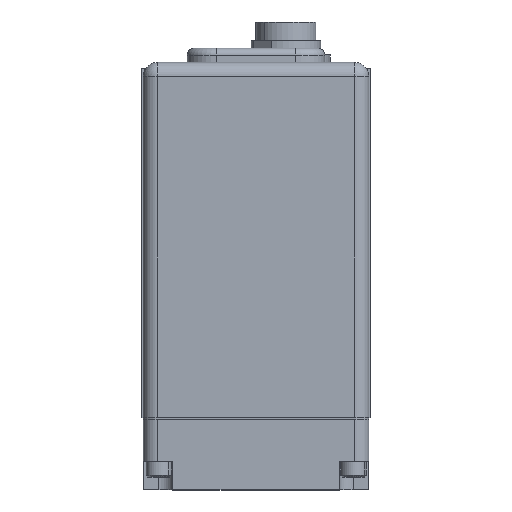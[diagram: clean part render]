
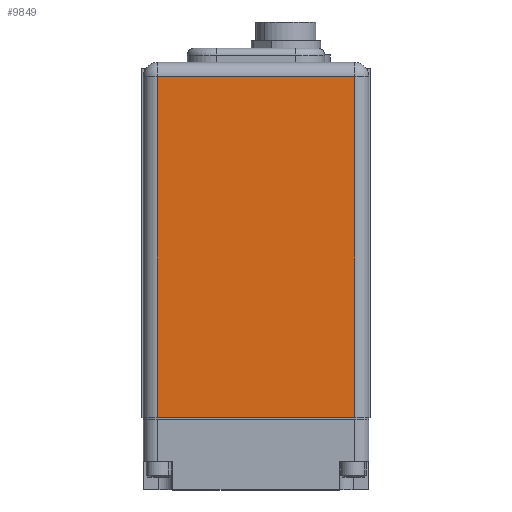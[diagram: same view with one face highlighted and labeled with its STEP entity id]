
A CAD part, top view. The second image highlights one B-rep face of the part: STEP entity #9849.
In plain terms, the highlighted planar face has unit normal (0, 0, 1) as drawn and (0, 1, 0) by its records, which use the part's own axes.
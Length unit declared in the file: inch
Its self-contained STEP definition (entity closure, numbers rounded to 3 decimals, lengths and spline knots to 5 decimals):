
#1101 = DIRECTION ( 'NONE',  ( 0., 0., -1. ) ) ;
#1125 = DIRECTION ( 'NONE',  ( 0., 0., -1. ) ) ;
#1736 = EDGE_CURVE ( 'NONE', #7206, #16267, #20302, .T. ) ;
#1935 = CARTESIAN_POINT ( 'NONE',  ( 0.875, 1., 0. ) ) ;
#2141 = VECTOR ( 'NONE', #17930, 39.37008 ) ;
#2163 = ORIENTED_EDGE ( 'NONE', *, *, #22318, .T. ) ;
#3141 = PLANE ( 'NONE',  #16396 ) ;
#3861 = LINE ( 'NONE', #11194, #2141 ) ;
#6800 = FACE_OUTER_BOUND ( 'NONE', #13980, .T. ) ;
#7206 = VERTEX_POINT ( 'NONE', #20013 ) ;
#8777 = LINE ( 'NONE', #12433, #17712 ) ;
#8821 = VERTEX_POINT ( 'NONE', #1935 ) ;
#9548 = DIRECTION ( 'NONE',  ( -1., 0., 0. ) ) ;
#9849 = ADVANCED_FACE ( 'NONE', ( #6800 ), #3141, .F. ) ;
#11005 = VECTOR ( 'NONE', #11047, 39.37008 ) ;
#11047 = DIRECTION ( 'NONE',  ( 1., 0., 0. ) ) ;
#11194 = CARTESIAN_POINT ( 'NONE',  ( -0.875, 1., -3.15 ) ) ;
#12433 = CARTESIAN_POINT ( 'NONE',  ( 0.875, 1., -3.15 ) ) ;
#13457 = VECTOR ( 'NONE', #9548, 39.37008 ) ;
#13980 = EDGE_LOOP ( 'NONE', ( #2163, #16439, #21750, #19689 ) ) ;
#14267 = EDGE_CURVE ( 'NONE', #8821, #7206, #8777, .T. ) ;
#14822 = CARTESIAN_POINT ( 'NONE',  ( -1., 1., 0. ) ) ;
#15804 = CARTESIAN_POINT ( 'NONE',  ( -0.875, 1., -3.025 ) ) ;
#16267 = VERTEX_POINT ( 'NONE', #15804 ) ;
#16396 = AXIS2_PLACEMENT_3D ( 'NONE', #21000, #17561, #1125 ) ;
#16439 = ORIENTED_EDGE ( 'NONE', *, *, #14267, .T. ) ;
#16709 = VERTEX_POINT ( 'NONE', #19034 ) ;
#17398 = EDGE_CURVE ( 'NONE', #16267, #16709, #3861, .T. ) ;
#17561 = DIRECTION ( 'NONE',  ( 0., -1., 0. ) ) ;
#17712 = VECTOR ( 'NONE', #1101, 39.37008 ) ;
#17930 = DIRECTION ( 'NONE',  ( 0., 0., 1. ) ) ;
#18371 = LINE ( 'NONE', #14822, #11005 ) ;
#18536 = CARTESIAN_POINT ( 'NONE',  ( -1., 1., -3.025 ) ) ;
#19034 = CARTESIAN_POINT ( 'NONE',  ( -0.875, 1., 0. ) ) ;
#19689 = ORIENTED_EDGE ( 'NONE', *, *, #17398, .T. ) ;
#20013 = CARTESIAN_POINT ( 'NONE',  ( 0.875, 1., -3.025 ) ) ;
#20302 = LINE ( 'NONE', #18536, #13457 ) ;
#21000 = CARTESIAN_POINT ( 'NONE',  ( -1., 1., -3.15 ) ) ;
#21750 = ORIENTED_EDGE ( 'NONE', *, *, #1736, .T. ) ;
#22318 = EDGE_CURVE ( 'NONE', #16709, #8821, #18371, .T. ) ;
